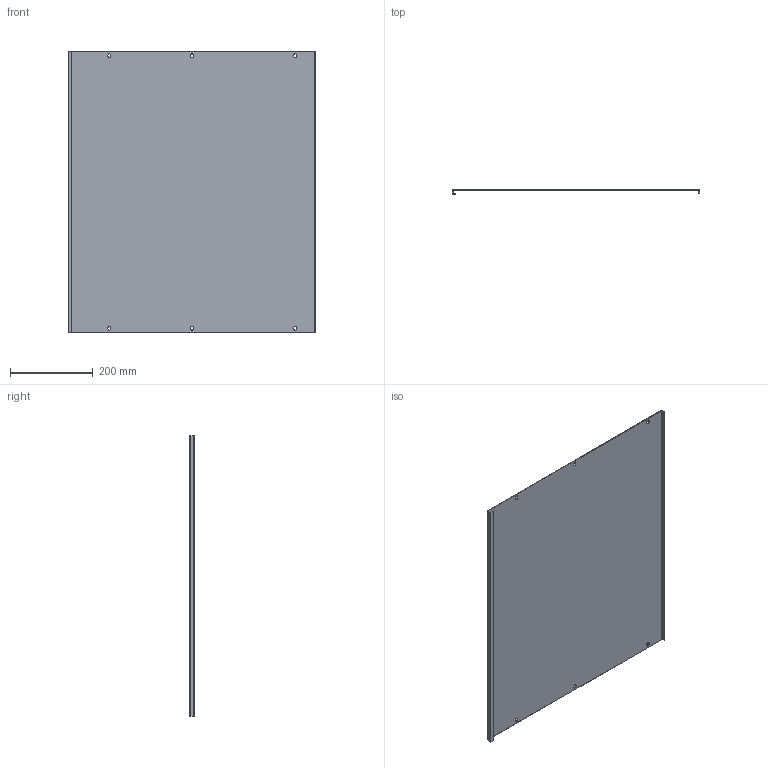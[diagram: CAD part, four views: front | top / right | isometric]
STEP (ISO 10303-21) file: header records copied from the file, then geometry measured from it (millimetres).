
FILE_DESCRIPTION (( 'STEP AP214' ), '1' );
FILE_NAME ('FO-00-PVS-060-080 Ïëàñòðîí ãëóõîé âíóòðåííèé 600õ800.STEP', '2025-08-26T08:30:35', ( '' ), ( '' ), 'SwSTEP 2.0', 'SolidWorks 2023', '' );
FILE_SCHEMA (( 'AUTOMOTIVE_DESIGN' ));
Length unit declared in the file: millimetre
Products named in the file (1): FO-00-PVS-060-080 Пластрон глухой внутренний 600х800
Bounding box: 598 x 12.5 x 679 mm (x, y, z)
Volume: 635008.6 mm3; surface area: 850839.1 mm2
Topology: 1 solids, 1 shells, 52 faces, 150 edges, 100 vertices
Faces by surface type: plane 34, cylinder 18
Entity records: 1757 total; most frequent: CARTESIAN_POINT 303, ORIENTED_EDGE 300, DIRECTION 292, EDGE_CURVE 150, VECTOR 114, LINE 114, VERTEX_POINT 100, AXIS2_PLACEMENT_3D 89
